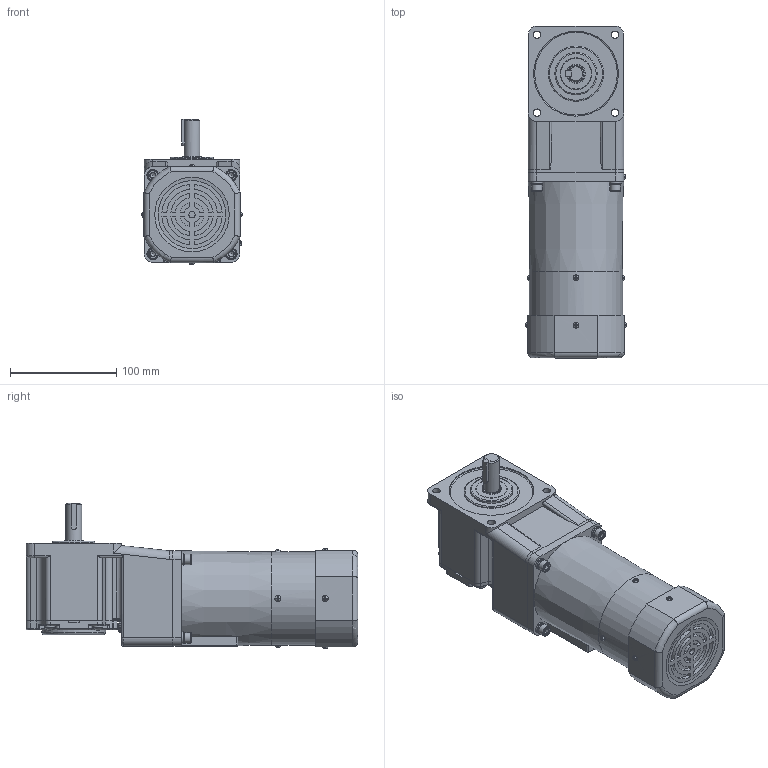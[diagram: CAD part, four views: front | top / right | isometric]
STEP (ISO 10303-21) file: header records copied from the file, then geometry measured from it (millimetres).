
FILE_DESCRIPTION(/* description */ (''),/* implementation_level */ '2;1');
FILE_NAME(/* name */ '90+中实直角-刹车调速风叶-60W.stp',/* time_stamp */ '2022-11-01T13:22:09+08:00',/* author */ (''),/* organization */ (''),/* preprocessor_version */ 'ST-DEVELOPER v16.7',/* originating_system */ 'SIEMENS PLM Software NX 1899',/* authorisation */ '');
FILE_SCHEMA (('AP203_CONFIGURATION_CONTROLLED_3D_DESIGN_OF_MECHANICAL_PARTS_AND_ASSEMBLIES_MIM_LF { 1 0 10303 403 2 1 2}'));
Length unit declared in the file: millimetre
Products named in the file (1): yf1854BC0762njwq
Bounding box: 94.81 x 313 x 137.41 mm (x, y, z)
Volume: 2126591.6 mm3; surface area: 165426.6 mm2
Topology: 15 solids, 15 shells, 765 faces, 1822 edges, 1126 vertices
Faces by surface type: plane 419, cylinder 222, torus 59, cone 45, bspline 12, sphere 8
Full cylindrical faces by diameter (mm): 5 x4, 5.5 x4, 5.795 x4, 6 x1, 6.4 x4, 7 x8, 9.5 x4, 10 x4, 11 x4, 15 x1, 18 x1, 30 x1, 40 x1, 52 x1, 60 x1, 67 x1, 76 x1, 80 x1, 86 x2, 87.914 x1
Entity records: 24054 total; most frequent: CARTESIAN_POINT 5883, DIRECTION 3501, ORIENTED_EDGE 3330, EDGE_CURVE 1665, AXIS2_PLACEMENT_3D 1326, VERTEX_POINT 1080, EDGE_LOOP 931, LINE 849
